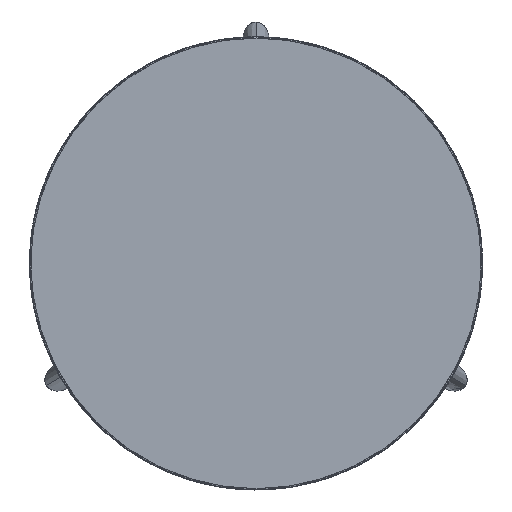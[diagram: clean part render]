
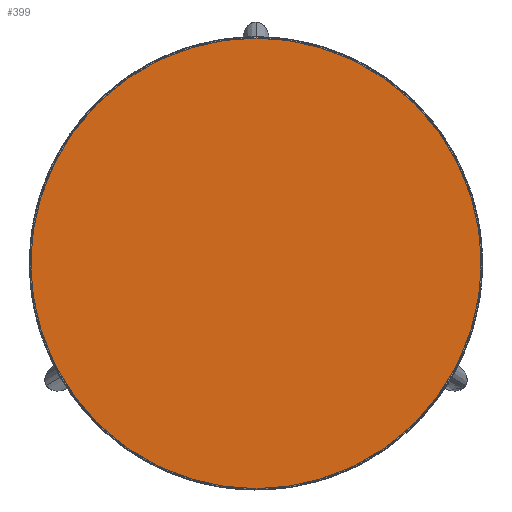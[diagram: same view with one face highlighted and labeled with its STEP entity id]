
A CAD part, top view. The second image highlights one B-rep face of the part: STEP entity #399.
In plain terms, the highlighted free-form (B-spline) face has degree [1, 1] with [2, 2] control points.
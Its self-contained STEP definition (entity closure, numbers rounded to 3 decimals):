
#105=(
BOUNDED_CURVE()
B_SPLINE_CURVE(2,(#21142,#21143,#21144,#21145,#21146),.UNSPECIFIED.,.F.,
 .F.)
B_SPLINE_CURVE_WITH_KNOTS((3,2,3),(505.968,1011.936,1517.905),
 .UNSPECIFIED.)
CURVE()
GEOMETRIC_REPRESENTATION_ITEM()
RATIONAL_B_SPLINE_CURVE((1.,0.707,1.,0.707,1.))
REPRESENTATION_ITEM('')
);
#106=(
BOUNDED_CURVE()
B_SPLINE_CURVE(2,(#21147,#21148,#21149,#21150,#21151),.UNSPECIFIED.,.F.,
 .F.)
B_SPLINE_CURVE_WITH_KNOTS((3,2,3),(505.968,1011.936,1517.905),
 .UNSPECIFIED.)
CURVE()
GEOMETRIC_REPRESENTATION_ITEM()
RATIONAL_B_SPLINE_CURVE((1.,0.707,1.,0.707,1.))
REPRESENTATION_ITEM('')
);
#107=(
BOUNDED_CURVE()
B_SPLINE_CURVE(2,(#21152,#21153,#21154,#21155,#21156),.UNSPECIFIED.,.F.,
 .F.)
B_SPLINE_CURVE_WITH_KNOTS((3,2,3),(0.,505.968,1011.936),
 .UNSPECIFIED.)
CURVE()
GEOMETRIC_REPRESENTATION_ITEM()
RATIONAL_B_SPLINE_CURVE((1.,0.707,1.,0.707,1.))
REPRESENTATION_ITEM('')
);
#108=(
BOUNDED_CURVE()
B_SPLINE_CURVE(2,(#21157,#21158,#21159,#21160,#21161),.UNSPECIFIED.,.F.,
 .F.)
B_SPLINE_CURVE_WITH_KNOTS((3,2,3),(0.,505.968,1011.936),
 .UNSPECIFIED.)
CURVE()
GEOMETRIC_REPRESENTATION_ITEM()
RATIONAL_B_SPLINE_CURVE((1.,0.707,1.,0.707,1.))
REPRESENTATION_ITEM('')
);
#399=ADVANCED_FACE('',(#461),#2445,.T.);
#461=FACE_OUTER_BOUND('',#523,.T.);
#523=EDGE_LOOP('',(#754,#755));
#754=ORIENTED_EDGE('',*,*,#1754,.T.);
#755=ORIENTED_EDGE('',*,*,#1755,.T.);
#1004=PCURVE('',#2445,#1254);
#1005=PCURVE('',#2445,#1255);
#1254=DEFINITIONAL_REPRESENTATION('',(#106),#21435);
#1255=DEFINITIONAL_REPRESENTATION('',(#108),#21435);
#1504=SURFACE_CURVE('',#105,(#1004),.PCURVE_S1.);
#1505=SURFACE_CURVE('',#107,(#1005),.PCURVE_S1.);
#1754=EDGE_CURVE('',#2382,#2383,#1504,.T.);
#1755=EDGE_CURVE('',#2383,#2382,#1505,.T.);
#2382=VERTEX_POINT('',#21140);
#2383=VERTEX_POINT('',#21141);
#2445=B_SPLINE_SURFACE_WITH_KNOTS('',1,1,((#21136,#21137),(#21138,#21139)),
 .UNSPECIFIED.,.F.,.F.,.F.,(2,2),(2,2),(-650.661,6.442),
(-328.552,328.552),.UNSPECIFIED.);
#21136=CARTESIAN_POINT('',(-328.552,328.552,728.));
#21137=CARTESIAN_POINT('',(328.552,328.552,728.));
#21138=CARTESIAN_POINT('',(-328.552,-328.552,728.));
#21139=CARTESIAN_POINT('',(328.552,-328.552,728.));
#21140=CARTESIAN_POINT('',(0.,-322.109,728.));
#21141=CARTESIAN_POINT('',(0.,322.109,728.));
#21142=CARTESIAN_POINT('',(0.,-322.109,728.));
#21143=CARTESIAN_POINT('',(322.109,-322.109,728.));
#21144=CARTESIAN_POINT('',(322.109,0.,728.));
#21145=CARTESIAN_POINT('',(322.109,322.109,728.));
#21146=CARTESIAN_POINT('',(0.,322.109,728.));
#21147=CARTESIAN_POINT('',(0.,0.));
#21148=CARTESIAN_POINT('',(0.,322.109));
#21149=CARTESIAN_POINT('',(-322.109,322.109));
#21150=CARTESIAN_POINT('',(-644.219,322.109));
#21151=CARTESIAN_POINT('',(-644.219,0.));
#21152=CARTESIAN_POINT('',(0.,322.109,728.));
#21153=CARTESIAN_POINT('',(-322.109,322.109,728.));
#21154=CARTESIAN_POINT('',(-322.109,0.,728.));
#21155=CARTESIAN_POINT('',(-322.109,-322.109,728.));
#21156=CARTESIAN_POINT('',(0.,-322.109,728.));
#21157=CARTESIAN_POINT('',(-644.219,0.));
#21158=CARTESIAN_POINT('',(-644.219,-322.109));
#21159=CARTESIAN_POINT('',(-322.109,-322.109));
#21160=CARTESIAN_POINT('',(0.,-322.109));
#21161=CARTESIAN_POINT('',(0.,0.));
#21435=(
GEOMETRIC_REPRESENTATION_CONTEXT(2)
PARAMETRIC_REPRESENTATION_CONTEXT()
REPRESENTATION_CONTEXT('pspace','')
);
